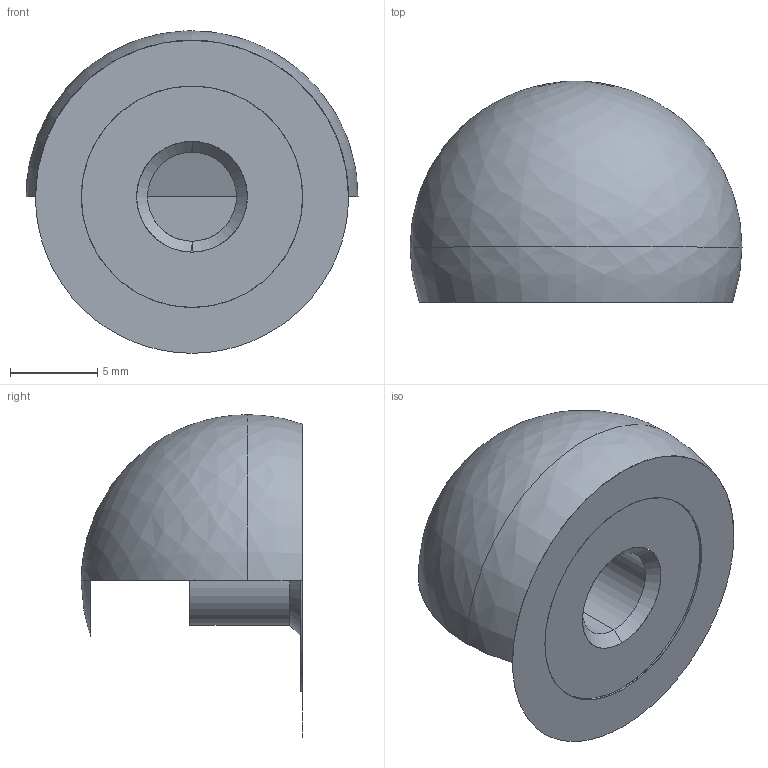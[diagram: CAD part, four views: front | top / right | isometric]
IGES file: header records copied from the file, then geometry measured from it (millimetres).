
Start section: SolidWorks IGES file using analytic representation for surfaces
Global section: file name: D:\Solid_parts\MECHeDESIGN\Bal-Tec\Catalog 105-A\Distribution\IGES\750-TBR-T.IGS; native system: SolidWorks 2005 by SolidWorks Corporation; preprocessor: SolidWorks 2005 by SolidWorks Corporation; author: rvillegas; date: 061205.184315; units: inch
Bounding box: 19.05 x 12.7 x 18.5 mm (x, y, z)
Surface area: 1036.6 mm2 (no closed solid volume)
Topology: 0 solids, 0 shells, 11 faces, 192 edges, 191 vertices
Faces by surface type: revolution 8, bspline 3
